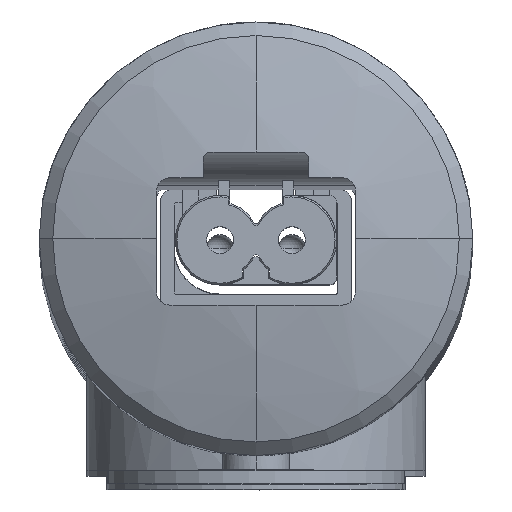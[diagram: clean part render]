
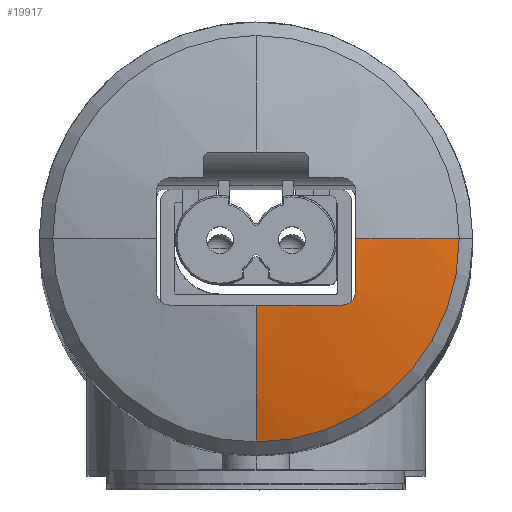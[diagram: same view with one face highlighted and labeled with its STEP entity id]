
A CAD part, top view. The second image highlights one B-rep face of the part: STEP entity #19917.
In plain terms, the highlighted spherical face has radius 50 mm.
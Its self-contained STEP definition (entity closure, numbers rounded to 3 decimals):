
#1128 = EDGE_LOOP ( 'NONE', ( #19444, #19443, #19468, #19489, #19473, #19487 ) ) ;
#7567 = AXIS2_PLACEMENT_3D ( 'NONE', #8818, #8836, #8837 ) ;
#7859 = AXIS2_PLACEMENT_3D ( 'NONE', #11718, #11719, #11720 ) ;
#7861 = AXIS2_PLACEMENT_3D ( 'NONE', #11728, #11729, #11730 ) ;
#7862 = AXIS2_PLACEMENT_3D ( 'NONE', #11735, #11736, #11737 ) ;
#7863 = AXIS2_PLACEMENT_3D ( 'NONE', #11742, #11743, #11744 ) ;
#7864 = AXIS2_PLACEMENT_3D ( 'NONE', #11758, #11759, #11760 ) ;
#8199 = FACE_OUTER_BOUND ( 'NONE', #1128, .T. ) ;
#8203 = SPHERICAL_SURFACE ( 'NONE', #7567, 50. ) ;
#8818 = CARTESIAN_POINT ( 'NONE',  ( 0., 0., 125.803 ) ) ;
#8836 = DIRECTION ( 'NONE',  ( 1., 0., 0. ) ) ;
#8837 = DIRECTION ( 'NONE',  ( 0., 1., 0. ) ) ;
#10192 = B_SPLINE_CURVE_WITH_KNOTS ( 'NONE', 3,
 ( #11705, #11640, #11639, #11707, #11708, #11709, #11710, #11711, #11712, #11713 ),
 .UNSPECIFIED., .F., .F.,
 ( 4, 2, 2, 2, 4 ),
 ( 0., 0., 0.001, 0.001, 0.002 ),
 .UNSPECIFIED. ) ;
#10194 = CIRCLE ( 'NONE', #7859, 49.457 ) ;
#10202 = CIRCLE ( 'NONE', #7861, 50. ) ;
#10207 = CIRCLE ( 'NONE', #7862, 15. ) ;
#10215 = CIRCLE ( 'NONE', #7863, 50. ) ;
#10222 = CIRCLE ( 'NONE', #7864, 49.759 ) ;
#11639 = CARTESIAN_POINT ( 'NONE',  ( 7.324, -4.162, 175.088 ) ) ;
#11640 = CARTESIAN_POINT ( 'NONE',  ( 7.35, -4.032, 175.095 ) ) ;
#11705 = CARTESIAN_POINT ( 'NONE',  ( 7.35, -3.9, 175.106 ) ) ;
#11707 = CARTESIAN_POINT ( 'NONE',  ( 7.223, -4.404, 175.082 ) ) ;
#11708 = CARTESIAN_POINT ( 'NONE',  ( 7.149, -4.515, 175.083 ) ) ;
#11709 = CARTESIAN_POINT ( 'NONE',  ( 6.964, -4.7, 175.092 ) ) ;
#11710 = CARTESIAN_POINT ( 'NONE',  ( 6.852, -4.774, 175.101 ) ) ;
#11711 = CARTESIAN_POINT ( 'NONE',  ( 6.612, -4.874, 175.124 ) ) ;
#11712 = CARTESIAN_POINT ( 'NONE',  ( 6.481, -4.9, 175.139 ) ) ;
#11713 = CARTESIAN_POINT ( 'NONE',  ( 6.35, -4.9, 175.156 ) ) ;
#11718 = CARTESIAN_POINT ( 'NONE',  ( 7.35, 0., 125.803 ) ) ;
#11719 = DIRECTION ( 'NONE',  ( 1., 0., 0. ) ) ;
#11720 = DIRECTION ( 'NONE',  ( 0., 0., 1. ) ) ;
#11728 = CARTESIAN_POINT ( 'NONE',  ( 0., 0., 125.803 ) ) ;
#11729 = DIRECTION ( 'NONE',  ( 0., 1., 0. ) ) ;
#11730 = DIRECTION ( 'NONE',  ( 0., 0., -1. ) ) ;
#11735 = CARTESIAN_POINT ( 'NONE',  ( 0., 0., 173.5 ) ) ;
#11736 = DIRECTION ( 'NONE',  ( 0., 0., 1. ) ) ;
#11737 = DIRECTION ( 'NONE',  ( 1., 0., 0. ) ) ;
#11742 = CARTESIAN_POINT ( 'NONE',  ( 0., 0., 125.803 ) ) ;
#11743 = DIRECTION ( 'NONE',  ( 1., 0., 0. ) ) ;
#11744 = DIRECTION ( 'NONE',  ( 0., 1., 0. ) ) ;
#11758 = CARTESIAN_POINT ( 'NONE',  ( 0., -4.9, 125.803 ) ) ;
#11759 = DIRECTION ( 'NONE',  ( 0., -1., 0. ) ) ;
#11760 = DIRECTION ( 'NONE',  ( -1., 0., 0. ) ) ;
#18101 = CARTESIAN_POINT ( 'NONE',  ( 15., 0., 173.5 ) ) ;
#18107 = CARTESIAN_POINT ( 'NONE',  ( 7.35, -3.9, 175.106 ) ) ;
#18108 = CARTESIAN_POINT ( 'NONE',  ( 0., -15., 173.5 ) ) ;
#18110 = CARTESIAN_POINT ( 'NONE',  ( 7.35, 0., 175.26 ) ) ;
#18111 = CARTESIAN_POINT ( 'NONE',  ( 0., -4.9, 175.562 ) ) ;
#18169 = CARTESIAN_POINT ( 'NONE',  ( 6.35, -4.9, 175.156 ) ) ;
#19443 = ORIENTED_EDGE ( 'NONE', *, *, #20425, .T. ) ;
#19444 = ORIENTED_EDGE ( 'NONE', *, *, #20429, .T. ) ;
#19468 = ORIENTED_EDGE ( 'NONE', *, *, #20422, .T. ) ;
#19473 = ORIENTED_EDGE ( 'NONE', *, *, #20416, .T. ) ;
#19487 = ORIENTED_EDGE ( 'NONE', *, *, #20413, .T. ) ;
#19489 = ORIENTED_EDGE ( 'NONE', *, *, #20419, .F. ) ;
#19917 = ADVANCED_FACE ( 'NONE', ( #8199 ), #8203, .T. ) ;
#20413 = EDGE_CURVE ( 'NONE', #23051, #23116, #10192, .T. ) ;
#20416 = EDGE_CURVE ( 'NONE', #23057, #23051, #10194, .T. ) ;
#20419 = EDGE_CURVE ( 'NONE', #23057, #23054, #10202, .T. ) ;
#20422 = EDGE_CURVE ( 'NONE', #23053, #23054, #10207, .T. ) ;
#20425 = EDGE_CURVE ( 'NONE', #23058, #23053, #10215, .T. ) ;
#20429 = EDGE_CURVE ( 'NONE', #23116, #23058, #10222, .T. ) ;
#23051 = VERTEX_POINT ( 'NONE', #18107 ) ;
#23053 = VERTEX_POINT ( 'NONE', #18108 ) ;
#23054 = VERTEX_POINT ( 'NONE', #18101 ) ;
#23057 = VERTEX_POINT ( 'NONE', #18110 ) ;
#23058 = VERTEX_POINT ( 'NONE', #18111 ) ;
#23116 = VERTEX_POINT ( 'NONE', #18169 ) ;
